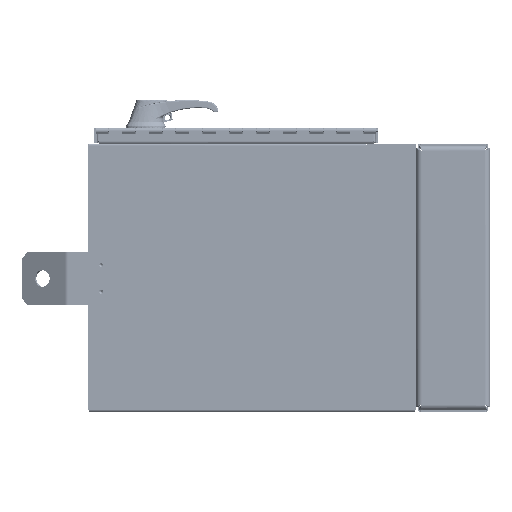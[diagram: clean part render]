
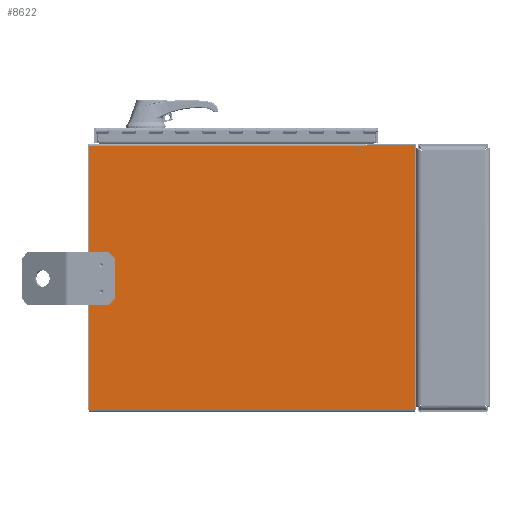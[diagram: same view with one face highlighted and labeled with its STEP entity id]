
A CAD part, left-side view. The second image highlights one B-rep face of the part: STEP entity #8622.
In plain terms, the highlighted planar face has unit normal (-1, 0, 0).
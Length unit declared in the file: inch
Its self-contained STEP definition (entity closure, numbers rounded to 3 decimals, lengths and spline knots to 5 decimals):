
#8622 = ADVANCED_FACE ( 'NONE', ( #27875, #27873, #27871 ), #27870, .F. ) ;
#8626 = EDGE_LOOP ( 'NONE', ( #8755, #8759 ) ) ;
#8657 = VERTEX_POINT ( 'NONE', #27936 ) ;
#8716 = ORIENTED_EDGE ( 'NONE', *, *, #8719, .F. ) ;
#8719 = EDGE_CURVE ( 'NONE', #8720, #8784, #27987, .T. ) ;
#8720 = VERTEX_POINT ( 'NONE', #27981 ) ;
#8722 = ORIENTED_EDGE ( 'NONE', *, *, #8723, .F. ) ;
#8723 = EDGE_CURVE ( 'NONE', #8724, #8720, #27980, .T. ) ;
#8724 = VERTEX_POINT ( 'NONE', #28101 ) ;
#8725 = ORIENTED_EDGE ( 'NONE', *, *, #8728, .F. ) ;
#8728 = EDGE_CURVE ( 'NONE', #8732, #8724, #28097, .T. ) ;
#8732 = VERTEX_POINT ( 'NONE', #28089 ) ;
#8735 = ORIENTED_EDGE ( 'NONE', *, *, #8739, .F. ) ;
#8739 = EDGE_CURVE ( 'NONE', #8657, #8732, #28086, .T. ) ;
#8755 = ORIENTED_EDGE ( 'NONE', *, *, #8757, .F. ) ;
#8757 = EDGE_CURVE ( 'NONE', #168644, #168641, #28172, .T. ) ;
#8759 = ORIENTED_EDGE ( 'NONE', *, *, #168836, .F. ) ;
#8764 = EDGE_LOOP ( 'NONE', ( #8767, #8772 ) ) ;
#8767 = ORIENTED_EDGE ( 'NONE', *, *, #8769, .F. ) ;
#8769 = EDGE_CURVE ( 'NONE', #168833, #168824, #28158, .T. ) ;
#8772 = ORIENTED_EDGE ( 'NONE', *, *, #168831, .F. ) ;
#8776 = EDGE_LOOP ( 'NONE', ( #8779, #8781, #8716, #8722, #8725, #8735 ) ) ;
#8779 = ORIENTED_EDGE ( 'NONE', *, *, #8795, .F. ) ;
#8781 = ORIENTED_EDGE ( 'NONE', *, *, #8782, .T. ) ;
#8782 = EDGE_CURVE ( 'NONE', #8790, #8784, #28149, .T. ) ;
#8784 = VERTEX_POINT ( 'NONE', #28142 ) ;
#8790 = VERTEX_POINT ( 'NONE', #28130 ) ;
#8795 = EDGE_CURVE ( 'NONE', #8790, #8657, #28129, .T. ) ;
#20765 = CARTESIAN_POINT ( 'NONE',  ( -15., 11.25, 11.203 ) ) ;
#20766 = CARTESIAN_POINT ( 'NONE',  ( -15., 11.25, 10.672 ) ) ;
#20937 = DIRECTION ( 'NONE',  ( 0., 0., 1. ) ) ;
#20938 = DIRECTION ( 'NONE',  ( -1., 0., 0. ) ) ;
#20939 = CARTESIAN_POINT ( 'NONE',  ( -15., 11.25, 10.9375 ) ) ;
#20940 = AXIS2_PLACEMENT_3D ( 'NONE', #20939, #20938, #20937 ) ;
#20941 = CIRCLE ( 'NONE', #20940, 0.2655 ) ;
#20943 = CARTESIAN_POINT ( 'NONE',  ( -15., 11.25, 9.203 ) ) ;
#20944 = DIRECTION ( 'NONE',  ( 0., 0., 1. ) ) ;
#20945 = DIRECTION ( 'NONE',  ( -1., 0., 0. ) ) ;
#20946 = CARTESIAN_POINT ( 'NONE',  ( -15., 11.25, 8.9375 ) ) ;
#20947 = AXIS2_PLACEMENT_3D ( 'NONE', #20946, #20945, #20944 ) ;
#20948 = CIRCLE ( 'NONE', #20947, 0.2655 ) ;
#20955 = CARTESIAN_POINT ( 'NONE',  ( -15., 11.25, 8.672 ) ) ;
#27862 = DIRECTION ( 'NONE',  ( 0., 0., -1. ) ) ;
#27864 = DIRECTION ( 'NONE',  ( 1., 0., 0. ) ) ;
#27865 = CARTESIAN_POINT ( 'NONE',  ( -15., 12.125, 19.875 ) ) ;
#27868 = AXIS2_PLACEMENT_3D ( 'NONE', #27865, #27864, #27862 ) ;
#27870 = PLANE ( 'NONE',  #27868 ) ;
#27871 = FACE_OUTER_BOUND ( 'NONE', #8776, .T. ) ;
#27873 = FACE_BOUND ( 'NONE', #8764, .T. ) ;
#27875 = FACE_BOUND ( 'NONE', #8626, .T. ) ;
#27936 = CARTESIAN_POINT ( 'NONE',  ( -15., -8.5, 19.875 ) ) ;
#27980 = LINE ( 'NONE', #28107, #28105 ) ;
#27981 = CARTESIAN_POINT ( 'NONE',  ( -15., 12.125, 0.165 ) ) ;
#27982 = DIRECTION ( 'NONE',  ( 0., 0., 1. ) ) ;
#27983 = VECTOR ( 'NONE', #27982, 39.37008 ) ;
#27986 = CARTESIAN_POINT ( 'NONE',  ( -15., 12.125, 0.125 ) ) ;
#27987 = LINE ( 'NONE', #27986, #27983 ) ;
#28081 = DIRECTION ( 'NONE',  ( 0., -1., 0. ) ) ;
#28082 = VECTOR ( 'NONE', #28081, 39.37008 ) ;
#28084 = CARTESIAN_POINT ( 'NONE',  ( -15., 12.125, 19.875 ) ) ;
#28086 = LINE ( 'NONE', #28084, #28082 ) ;
#28089 = CARTESIAN_POINT ( 'NONE',  ( -15., -12.125, 19.875 ) ) ;
#28094 = DIRECTION ( 'NONE',  ( 0., 0., -1. ) ) ;
#28095 = VECTOR ( 'NONE', #28094, 39.37008 ) ;
#28096 = CARTESIAN_POINT ( 'NONE',  ( -15., -12.125, 19.875 ) ) ;
#28097 = LINE ( 'NONE', #28096, #28095 ) ;
#28101 = CARTESIAN_POINT ( 'NONE',  ( -15., -12.125, 0.165 ) ) ;
#28103 = DIRECTION ( 'NONE',  ( 0., 1., 0. ) ) ;
#28105 = VECTOR ( 'NONE', #28103, 39.37008 ) ;
#28107 = CARTESIAN_POINT ( 'NONE',  ( -15., 12.125, 0.165 ) ) ;
#28123 = DIRECTION ( 'NONE',  ( 0., 0., 1. ) ) ;
#28125 = VECTOR ( 'NONE', #28123, 39.37008 ) ;
#28127 = CARTESIAN_POINT ( 'NONE',  ( -15., -8.5, 19.875 ) ) ;
#28129 = LINE ( 'NONE', #28127, #28125 ) ;
#28130 = CARTESIAN_POINT ( 'NONE',  ( -15., -8.5, 19.835 ) ) ;
#28142 = CARTESIAN_POINT ( 'NONE',  ( -15., 12.125, 19.835 ) ) ;
#28144 = DIRECTION ( 'NONE',  ( 0., 1., 0. ) ) ;
#28146 = VECTOR ( 'NONE', #28144, 39.37008 ) ;
#28147 = CARTESIAN_POINT ( 'NONE',  ( -15., -8.5, 19.835 ) ) ;
#28149 = LINE ( 'NONE', #28147, #28146 ) ;
#28153 = DIRECTION ( 'NONE',  ( 0., 0., 1. ) ) ;
#28154 = DIRECTION ( 'NONE',  ( -1., 0., 0. ) ) ;
#28155 = CARTESIAN_POINT ( 'NONE',  ( -15., 11.25, 8.9375 ) ) ;
#28156 = AXIS2_PLACEMENT_3D ( 'NONE', #28155, #28154, #28153 ) ;
#28158 = CIRCLE ( 'NONE', #28156, 0.2655 ) ;
#28166 = DIRECTION ( 'NONE',  ( 0., 0., 1. ) ) ;
#28168 = DIRECTION ( 'NONE',  ( -1., 0., 0. ) ) ;
#28169 = CARTESIAN_POINT ( 'NONE',  ( -15., 11.25, 10.9375 ) ) ;
#28170 = AXIS2_PLACEMENT_3D ( 'NONE', #28169, #28168, #28166 ) ;
#28172 = CIRCLE ( 'NONE', #28170, 0.2655 ) ;
#168641 = VERTEX_POINT ( 'NONE', #20766 ) ;
#168644 = VERTEX_POINT ( 'NONE', #20765 ) ;
#168824 = VERTEX_POINT ( 'NONE', #20955 ) ;
#168831 = EDGE_CURVE ( 'NONE', #168824, #168833, #20948, .T. ) ;
#168833 = VERTEX_POINT ( 'NONE', #20943 ) ;
#168836 = EDGE_CURVE ( 'NONE', #168641, #168644, #20941, .T. ) ;
